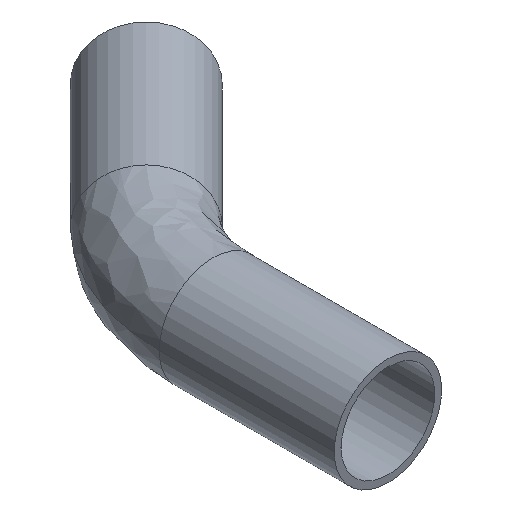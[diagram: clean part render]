
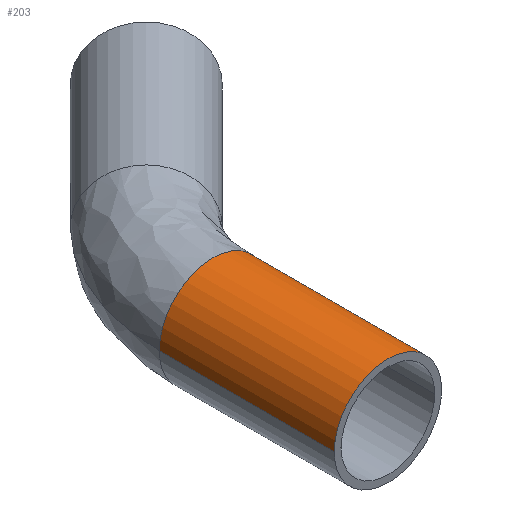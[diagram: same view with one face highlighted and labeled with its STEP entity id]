
A CAD part, isometric view. The second image highlights one B-rep face of the part: STEP entity #203.
In plain terms, the highlighted cylindrical face has radius 12.7 mm (diameter 25.4 mm), a partial arc.
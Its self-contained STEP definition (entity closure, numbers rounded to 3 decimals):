
#17 = AXIS2_PLACEMENT_3D ( 'NONE', #460, #57, #77 ) ;
#19 = CARTESIAN_POINT ( 'NONE',  ( 12.7, 41.418, 0. ) ) ;
#20 = EDGE_CURVE ( 'NONE', #279, #137, #265, .T. ) ;
#21 = CARTESIAN_POINT ( 'NONE',  ( 0., 41.418, 0. ) ) ;
#55 = CYLINDRICAL_SURFACE ( 'NONE', #321, 12.7 ) ;
#57 = DIRECTION ( 'NONE',  ( 0., 1., 0. ) ) ;
#73 = CARTESIAN_POINT ( 'NONE',  ( 0., 41.418, 0. ) ) ;
#77 = DIRECTION ( 'NONE',  ( 1., 0., 0. ) ) ;
#98 = EDGE_LOOP ( 'NONE', ( #282, #288, #463, #246 ) ) ;
#99 = DIRECTION ( 'NONE',  ( 0., -1., 0. ) ) ;
#106 = CARTESIAN_POINT ( 'NONE',  ( 12.7, 0., 0. ) ) ;
#137 = VERTEX_POINT ( 'NONE', #19 ) ;
#147 = DIRECTION ( 'NONE',  ( 1., 0., 0. ) ) ;
#170 = VERTEX_POINT ( 'NONE', #215 ) ;
#175 = VERTEX_POINT ( 'NONE', #106 ) ;
#180 = CARTESIAN_POINT ( 'NONE',  ( -12.7, 41.418, 0. ) ) ;
#194 = EDGE_CURVE ( 'NONE', #137, #175, #229, .T. ) ;
#203 = ADVANCED_FACE ( 'NONE', ( #366 ), #55, .T. ) ;
#215 = CARTESIAN_POINT ( 'NONE',  ( -12.7, 0., 0. ) ) ;
#217 = DIRECTION ( 'NONE',  ( -1., 0., 0. ) ) ;
#229 = LINE ( 'NONE', #262, #372 ) ;
#239 = EDGE_CURVE ( 'NONE', #170, #175, #244, .T. ) ;
#244 = CIRCLE ( 'NONE', #17, 12.7 ) ;
#246 = ORIENTED_EDGE ( 'NONE', *, *, #194, .F. ) ;
#262 = CARTESIAN_POINT ( 'NONE',  ( 12.7, 41.418, 0. ) ) ;
#265 = CIRCLE ( 'NONE', #326, 12.7 ) ;
#279 = VERTEX_POINT ( 'NONE', #180 ) ;
#282 = ORIENTED_EDGE ( 'NONE', *, *, #20, .F. ) ;
#288 = ORIENTED_EDGE ( 'NONE', *, *, #347, .T. ) ;
#291 = LINE ( 'NONE', #343, #394 ) ;
#321 = AXIS2_PLACEMENT_3D ( 'NONE', #21, #99, #147 ) ;
#326 = AXIS2_PLACEMENT_3D ( 'NONE', #73, #345, #217 ) ;
#334 = DIRECTION ( 'NONE',  ( 0., -1., 0. ) ) ;
#343 = CARTESIAN_POINT ( 'NONE',  ( -12.7, 41.418, 0. ) ) ;
#345 = DIRECTION ( 'NONE',  ( 0., 1., 0. ) ) ;
#347 = EDGE_CURVE ( 'NONE', #279, #170, #291, .T. ) ;
#351 = DIRECTION ( 'NONE',  ( 0., -1., 0. ) ) ;
#366 = FACE_OUTER_BOUND ( 'NONE', #98, .T. ) ;
#372 = VECTOR ( 'NONE', #351, 1000. ) ;
#394 = VECTOR ( 'NONE', #334, 1000. ) ;
#460 = CARTESIAN_POINT ( 'NONE',  ( 0., 0., 0. ) ) ;
#463 = ORIENTED_EDGE ( 'NONE', *, *, #239, .T. ) ;
